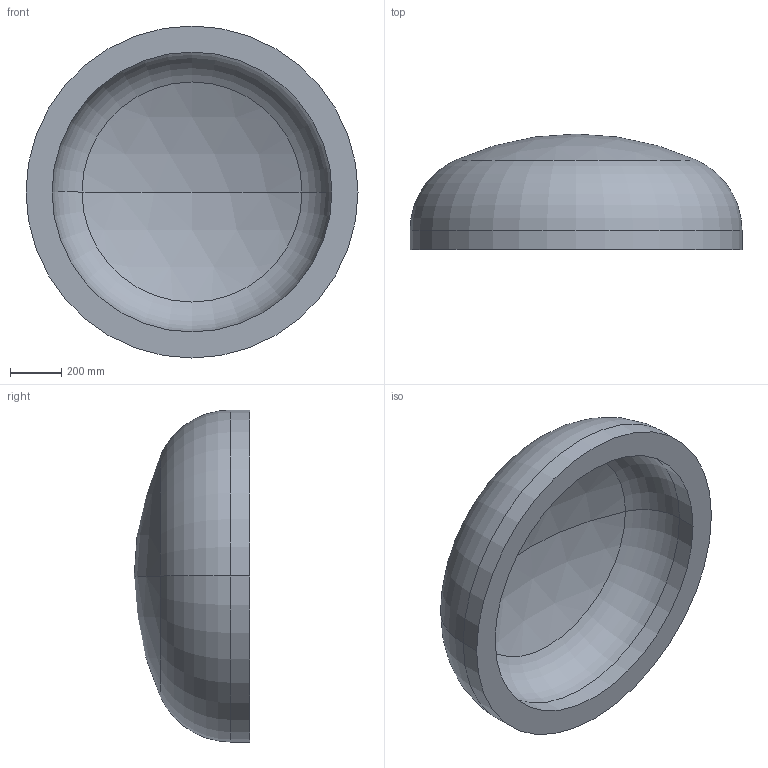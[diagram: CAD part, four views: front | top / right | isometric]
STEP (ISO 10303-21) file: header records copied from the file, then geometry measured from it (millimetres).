
FILE_DESCRIPTION (( 'STEP AP203' ), '1' );
FILE_NAME ('DIN 28013 Korbbogenform_-_Boden DIN 28013 - 1300 x 75 - I - s=102.step', '2016-07-01T10:02:15', ( '' ), ( '' ), 'SwSTEP 2.0', 'SolidWorks 2013', '' );
FILE_SCHEMA (( 'CONFIG_CONTROL_DESIGN' ));
Length unit declared in the file: millimetre
Products named in the file (1): DIN 28013 Korbbogenform_-_Boden DIN 28013 - 1300 x 75 - I - s=102
Bounding box: 1300 x 452.48 x 1300 mm (x, y, z)
Volume: 198659633.3 mm3; surface area: 4300966.3 mm2
Topology: 1 solids, 1 shells, 13 faces, 24 edges, 14 vertices
Faces by surface type: torus 4, cylinder 4, sphere 4, plane 1
Entity records: 407 total; most frequent: DIRECTION 72, CARTESIAN_POINT 52, ORIENTED_EDGE 48, AXIS2_PLACEMENT_3D 34, EDGE_CURVE 24, CIRCLE 20, EDGE_LOOP 14, VERTEX_POINT 14
